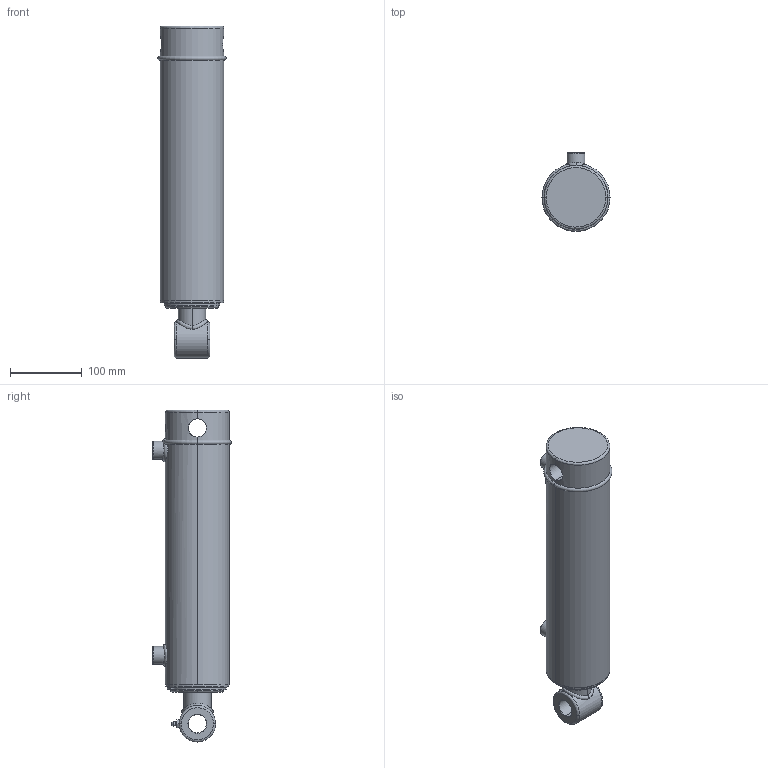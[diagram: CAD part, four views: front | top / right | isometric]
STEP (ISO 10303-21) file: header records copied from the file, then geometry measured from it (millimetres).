
FILE_DESCRIPTION (( 'STEP AP203' ), '1' );
FILE_NAME ('SB-C3001550x245 (10).STEP', '2014-11-19T21:10:18', ( '' ), ( '' ), 'SwSTEP 2.0', 'SolidWorks 2014', '' );
FILE_SCHEMA (( 'CONFIG_CONTROL_DESIGN' ));
Length unit declared in the file: millimetre
Products named in the file (7): SB-C300150x254 (10) BODY; 3 inch circlip; SB-C3001550x254 (10) body; 10 SPARE; 18 NPT GREASE NIPPLE; SPARE 10; SB-C3001550x245 (10)
Assembly tree (6 placements, depth 3):
  SB-C3001550x245 (10)
    SB-C3001550x254 (10) body
      SB-C300150x254 (10) BODY
      3 inch circlip
    SPARE 10
      10 SPARE
      18 NPT GREASE NIPPLE
Bounding box: 94.9 x 109.9 x 462.4 mm (x, y, z)
Volume: 2573548.7 mm3; surface area: 224747.3 mm2
Topology: 4 solids, 4 shells, 133 faces, 306 edges, 190 vertices
Faces by surface type: cylinder 51, plane 29, cone 22, bspline 18, torus 11, sphere 2
Entity records: 10452 total; most frequent: CARTESIAN_POINT 6772, DIRECTION 638, ORIENTED_EDGE 604, EDGE_CURVE 302, AXIS2_PLACEMENT_3D 270, VERTEX_POINT 190, EDGE_LOOP 158, CIRCLE 144
